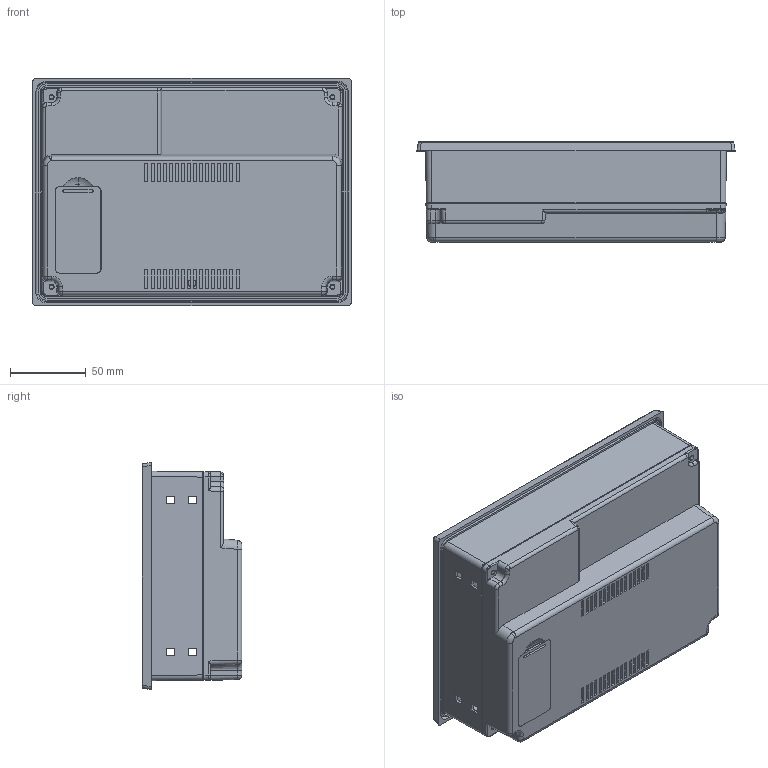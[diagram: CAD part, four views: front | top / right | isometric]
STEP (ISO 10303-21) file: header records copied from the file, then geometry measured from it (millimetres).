
FILE_DESCRIPTION (( 'STEP AP203' ), '1' );
FILE_NAME ('OP-360-K.STEP', '2022-10-26T13:28:04', ( '' ), ( '' ), 'SwSTEP 2.0', 'SolidWorks 2021', '' );
FILE_SCHEMA (( 'CONFIG_CONTROL_DESIGN' ));
Length unit declared in the file: millimetre
Products named in the file (4): OP-360-P-2; OP-360-P-1; OP-360-K; HH-095_pil_kapagi
Assembly tree (3 placements, depth 2):
  OP-360-K
    OP-360-P-2
    OP-360-P-1
    HH-095_pil_kapagi
Bounding box: 209.7 x 65.8 x 149.7 mm (x, y, z)
Volume: 229813.5 mm3; surface area: 224513.3 mm2
Topology: 3 solids, 3 shells, 962 faces, 2603 edges, 1689 vertices
Faces by surface type: plane 625, cylinder 236, cone 48, bspline 36, sphere 9, torus 8
Entity records: 31212 total; most frequent: CARTESIAN_POINT 7314, ORIENTED_EDGE 5188, DIRECTION 4493, EDGE_CURVE 2594, LINE 1801, VECTOR 1801, VERTEX_POINT 1689, AXIS2_PLACEMENT_3D 1346
